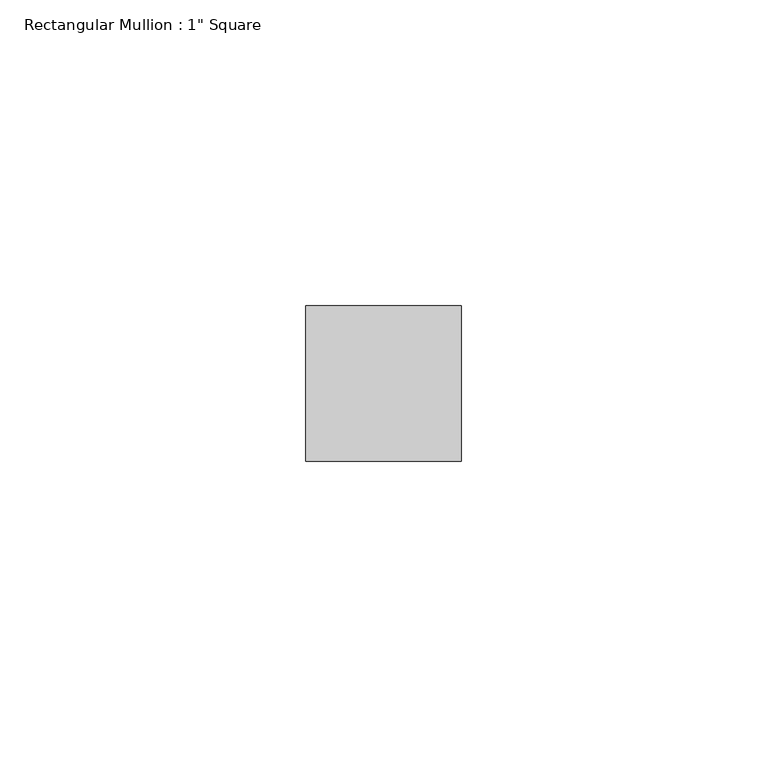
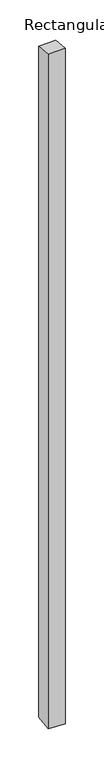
"""IFC4 building model written with IfcOpenShell, lengths in millimetres: member geometry."""

from ifc_helpers import new_model, si_unit, origin, place, context, project, spatial, faceted_brep, source, transform, mapped, element, save


def member_f7a51896(model_context):
    return source(origin(), model_context, "Body", "Brep", [
        faceted_brep([(-25.4, 12.7, -2.1829583), (0.0, 12.7, -1.3871582), (0.0, 12.7, -1065.4128418), (-25.4, 12.7, -1064.6170417), (-25.4, -12.7, 0.591358), (-25.4, -12.7, -1067.391358), (0.0, -12.7, 1.3871582), (0.0, -12.7, -1068.1871582)], [[[0, 1, 2, 3]], [[4, 0, 3, 5]], [[6, 4, 5, 7]], [[1, 6, 7, 2]], [[1, 0, 4, 6]], [[2, 7, 5, 3]]]),
    ])


if __name__ == "__main__":
    model = new_model("IFC4")
    model_context = context("Model", 3, world=origin())
    ifc_project = project(units=[si_unit("LENGTHUNIT", "METRE", prefix="MILLI")], contexts=[model_context])
    site = spatial("IfcSite", under=ifc_project)
    building = spatial("IfcBuilding", under=site)
    placement = place(None, origin())
    member_shape = member_f7a51896(model_context)
    element("IfcMember", 1, ObjectType="Rectangular Mullion : 1\" Square", at=placement, inside=building, context=model_context, shape_type="MappedRepresentation", body=[
        mapped(member_shape, transform((0.0, 0.0, 0.0), x_axis=(1.0, 0.0, 0.0), y_axis=(0.0, 1.0, 0.0), z_axis=(0.0, 0.0, 1.0))),
    ])
    save(model, "model.ifc")
